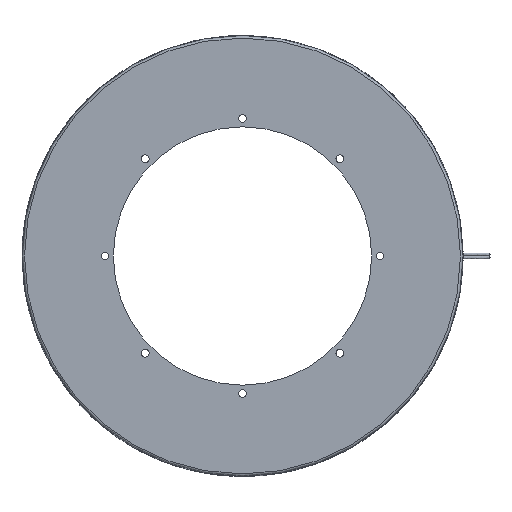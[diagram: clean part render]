
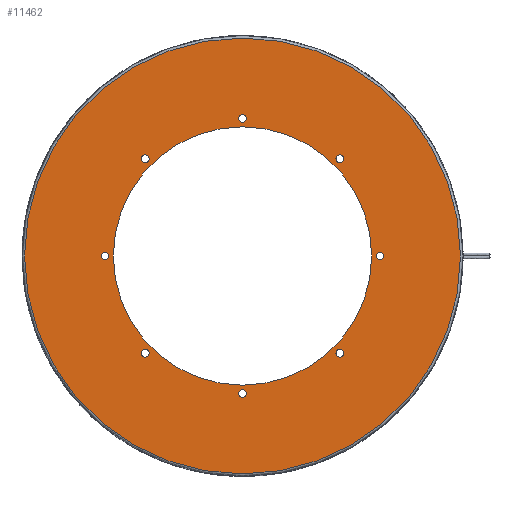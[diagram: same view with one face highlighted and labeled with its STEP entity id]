
A CAD part, left-side view. The second image highlights one B-rep face of the part: STEP entity #11462.
In plain terms, the highlighted planar face has unit normal (-1, 0, 0).
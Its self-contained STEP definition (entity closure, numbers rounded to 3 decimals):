
#546=FACE_BOUND('',#1908,.T.);
#547=FACE_BOUND('',#1909,.T.);
#548=FACE_BOUND('',#1910,.T.);
#549=FACE_BOUND('',#1911,.T.);
#550=FACE_BOUND('',#1912,.T.);
#551=FACE_BOUND('',#1913,.T.);
#552=FACE_BOUND('',#1914,.T.);
#553=FACE_BOUND('',#1915,.T.);
#554=FACE_BOUND('',#1916,.T.);
#758=PLANE('',#12808);
#1270=FACE_OUTER_BOUND('',#1907,.T.);
#1907=EDGE_LOOP('',(#9763,#9764));
#1908=EDGE_LOOP('',(#9765,#9766));
#1909=EDGE_LOOP('',(#9767,#9768));
#1910=EDGE_LOOP('',(#9769,#9770));
#1911=EDGE_LOOP('',(#9771,#9772));
#1912=EDGE_LOOP('',(#9773,#9774));
#1913=EDGE_LOOP('',(#9775,#9776));
#1914=EDGE_LOOP('',(#9777,#9778));
#1915=EDGE_LOOP('',(#9779,#9780));
#1916=EDGE_LOOP('',(#9781,#9782));
#4091=CIRCLE('',#12809,299.5);
#4092=CIRCLE('',#12810,299.5);
#4093=CIRCLE('',#12811,5.25);
#4094=CIRCLE('',#12812,5.25);
#4095=CIRCLE('',#12813,5.25);
#4096=CIRCLE('',#12814,5.25);
#4097=CIRCLE('',#12815,5.25);
#4098=CIRCLE('',#12816,5.25);
#4099=CIRCLE('',#12817,5.25);
#4100=CIRCLE('',#12818,5.25);
#4101=CIRCLE('',#12819,5.25);
#4102=CIRCLE('',#12820,5.25);
#4103=CIRCLE('',#12821,5.25);
#4104=CIRCLE('',#12822,5.25);
#4105=CIRCLE('',#12823,5.25);
#4106=CIRCLE('',#12824,5.25);
#4107=CIRCLE('',#12825,5.25);
#4108=CIRCLE('',#12826,5.25);
#4109=CIRCLE('',#12827,177.5);
#4110=CIRCLE('',#12828,177.5);
#5237=VERTEX_POINT('',#19817);
#5238=VERTEX_POINT('',#19818);
#5239=VERTEX_POINT('',#19821);
#5240=VERTEX_POINT('',#19822);
#5241=VERTEX_POINT('',#19825);
#5242=VERTEX_POINT('',#19826);
#5243=VERTEX_POINT('',#19829);
#5244=VERTEX_POINT('',#19830);
#5245=VERTEX_POINT('',#19833);
#5246=VERTEX_POINT('',#19834);
#5247=VERTEX_POINT('',#19837);
#5248=VERTEX_POINT('',#19838);
#5249=VERTEX_POINT('',#19841);
#5250=VERTEX_POINT('',#19842);
#5251=VERTEX_POINT('',#19845);
#5252=VERTEX_POINT('',#19846);
#5253=VERTEX_POINT('',#19849);
#5254=VERTEX_POINT('',#19850);
#5255=VERTEX_POINT('',#19853);
#5256=VERTEX_POINT('',#19854);
#6807=EDGE_CURVE('',#5237,#5238,#4091,.T.);
#6808=EDGE_CURVE('',#5238,#5237,#4092,.T.);
#6809=EDGE_CURVE('',#5239,#5240,#4093,.T.);
#6810=EDGE_CURVE('',#5240,#5239,#4094,.T.);
#6811=EDGE_CURVE('',#5241,#5242,#4095,.T.);
#6812=EDGE_CURVE('',#5242,#5241,#4096,.T.);
#6813=EDGE_CURVE('',#5243,#5244,#4097,.T.);
#6814=EDGE_CURVE('',#5244,#5243,#4098,.T.);
#6815=EDGE_CURVE('',#5245,#5246,#4099,.T.);
#6816=EDGE_CURVE('',#5246,#5245,#4100,.T.);
#6817=EDGE_CURVE('',#5247,#5248,#4101,.T.);
#6818=EDGE_CURVE('',#5248,#5247,#4102,.T.);
#6819=EDGE_CURVE('',#5249,#5250,#4103,.T.);
#6820=EDGE_CURVE('',#5250,#5249,#4104,.T.);
#6821=EDGE_CURVE('',#5251,#5252,#4105,.T.);
#6822=EDGE_CURVE('',#5252,#5251,#4106,.T.);
#6823=EDGE_CURVE('',#5253,#5254,#4107,.T.);
#6824=EDGE_CURVE('',#5254,#5253,#4108,.T.);
#6825=EDGE_CURVE('',#5255,#5256,#4109,.T.);
#6826=EDGE_CURVE('',#5256,#5255,#4110,.T.);
#9763=ORIENTED_EDGE('',*,*,#6807,.F.);
#9764=ORIENTED_EDGE('',*,*,#6808,.F.);
#9765=ORIENTED_EDGE('',*,*,#6809,.T.);
#9766=ORIENTED_EDGE('',*,*,#6810,.T.);
#9767=ORIENTED_EDGE('',*,*,#6811,.T.);
#9768=ORIENTED_EDGE('',*,*,#6812,.T.);
#9769=ORIENTED_EDGE('',*,*,#6813,.T.);
#9770=ORIENTED_EDGE('',*,*,#6814,.T.);
#9771=ORIENTED_EDGE('',*,*,#6815,.T.);
#9772=ORIENTED_EDGE('',*,*,#6816,.T.);
#9773=ORIENTED_EDGE('',*,*,#6817,.T.);
#9774=ORIENTED_EDGE('',*,*,#6818,.T.);
#9775=ORIENTED_EDGE('',*,*,#6819,.T.);
#9776=ORIENTED_EDGE('',*,*,#6820,.T.);
#9777=ORIENTED_EDGE('',*,*,#6821,.T.);
#9778=ORIENTED_EDGE('',*,*,#6822,.T.);
#9779=ORIENTED_EDGE('',*,*,#6823,.T.);
#9780=ORIENTED_EDGE('',*,*,#6824,.T.);
#9781=ORIENTED_EDGE('',*,*,#6825,.F.);
#9782=ORIENTED_EDGE('',*,*,#6826,.F.);
#11462=ADVANCED_FACE('',(#1270,#546,#547,#548,#549,#550,#551,#552,#553,
#554),#758,.T.);
#12808=AXIS2_PLACEMENT_3D('',#19816,#16113,#16114);
#12809=AXIS2_PLACEMENT_3D('',#19819,#16115,#16116);
#12810=AXIS2_PLACEMENT_3D('',#19820,#16117,#16118);
#12811=AXIS2_PLACEMENT_3D('',#19823,#16119,#16120);
#12812=AXIS2_PLACEMENT_3D('',#19824,#16121,#16122);
#12813=AXIS2_PLACEMENT_3D('',#19827,#16123,#16124);
#12814=AXIS2_PLACEMENT_3D('',#19828,#16125,#16126);
#12815=AXIS2_PLACEMENT_3D('',#19831,#16127,#16128);
#12816=AXIS2_PLACEMENT_3D('',#19832,#16129,#16130);
#12817=AXIS2_PLACEMENT_3D('',#19835,#16131,#16132);
#12818=AXIS2_PLACEMENT_3D('',#19836,#16133,#16134);
#12819=AXIS2_PLACEMENT_3D('',#19839,#16135,#16136);
#12820=AXIS2_PLACEMENT_3D('',#19840,#16137,#16138);
#12821=AXIS2_PLACEMENT_3D('',#19843,#16139,#16140);
#12822=AXIS2_PLACEMENT_3D('',#19844,#16141,#16142);
#12823=AXIS2_PLACEMENT_3D('',#19847,#16143,#16144);
#12824=AXIS2_PLACEMENT_3D('',#19848,#16145,#16146);
#12825=AXIS2_PLACEMENT_3D('',#19851,#16147,#16148);
#12826=AXIS2_PLACEMENT_3D('',#19852,#16149,#16150);
#12827=AXIS2_PLACEMENT_3D('',#19855,#16151,#16152);
#12828=AXIS2_PLACEMENT_3D('',#19856,#16153,#16154);
#16113=DIRECTION('center_axis',(-1.,0.,0.));
#16114=DIRECTION('ref_axis',(0.,-1.,0.));
#16115=DIRECTION('center_axis',(1.,0.,0.));
#16116=DIRECTION('ref_axis',(0.,0.,
-1.));
#16117=DIRECTION('center_axis',(1.,0.,0.));
#16118=DIRECTION('ref_axis',(0.,0.,
-1.));
#16119=DIRECTION('center_axis',(1.,0.,0.));
#16120=DIRECTION('ref_axis',(0.,-1.,0.));
#16121=DIRECTION('center_axis',(1.,0.,0.));
#16122=DIRECTION('ref_axis',(0.,-1.,0.));
#16123=DIRECTION('center_axis',(1.,0.,0.));
#16124=DIRECTION('ref_axis',(0.,-1.,0.));
#16125=DIRECTION('center_axis',(1.,0.,0.));
#16126=DIRECTION('ref_axis',(0.,-1.,0.));
#16127=DIRECTION('center_axis',(1.,0.,0.));
#16128=DIRECTION('ref_axis',(0.,-1.,0.));
#16129=DIRECTION('center_axis',(1.,0.,0.));
#16130=DIRECTION('ref_axis',(0.,-1.,0.));
#16131=DIRECTION('center_axis',(1.,0.,0.));
#16132=DIRECTION('ref_axis',(0.,-1.,0.));
#16133=DIRECTION('center_axis',(1.,0.,0.));
#16134=DIRECTION('ref_axis',(0.,-1.,0.));
#16135=DIRECTION('center_axis',(1.,0.,0.));
#16136=DIRECTION('ref_axis',(0.,-1.,0.));
#16137=DIRECTION('center_axis',(1.,0.,0.));
#16138=DIRECTION('ref_axis',(0.,-1.,0.));
#16139=DIRECTION('center_axis',(1.,0.,0.));
#16140=DIRECTION('ref_axis',(0.,-1.,0.));
#16141=DIRECTION('center_axis',(1.,0.,0.));
#16142=DIRECTION('ref_axis',(0.,-1.,0.));
#16143=DIRECTION('center_axis',(1.,0.,0.));
#16144=DIRECTION('ref_axis',(0.,-1.,0.));
#16145=DIRECTION('center_axis',(1.,0.,0.));
#16146=DIRECTION('ref_axis',(0.,-1.,0.));
#16147=DIRECTION('center_axis',(1.,0.,0.));
#16148=DIRECTION('ref_axis',(0.,-1.,0.));
#16149=DIRECTION('center_axis',(1.,0.,0.));
#16150=DIRECTION('ref_axis',(0.,-1.,0.));
#16151=DIRECTION('center_axis',(-1.,0.,0.));
#16152=DIRECTION('ref_axis',(0.,0.,
1.));
#16153=DIRECTION('center_axis',(-1.,0.,0.));
#16154=DIRECTION('ref_axis',(0.,0.,
1.));
#19816=CARTESIAN_POINT('Origin',(-39.2,0.,
240.));
#19817=CARTESIAN_POINT('',(-39.2,0.,299.5));
#19818=CARTESIAN_POINT('',(-39.2,299.5,0.));
#19819=CARTESIAN_POINT('Origin',(-39.2,0.,
0.));
#19820=CARTESIAN_POINT('Origin',(-39.2,0.,
0.));
#19821=CARTESIAN_POINT('',(-39.2,-5.25,-189.));
#19822=CARTESIAN_POINT('',(-39.2,5.25,-189.));
#19823=CARTESIAN_POINT('Origin',(-39.2,0.,-189.));
#19824=CARTESIAN_POINT('Origin',(-39.2,0.,-189.));
#19825=CARTESIAN_POINT('',(-39.2,183.75,0.));
#19826=CARTESIAN_POINT('',(-39.2,194.25,0.));
#19827=CARTESIAN_POINT('Origin',(-39.2,189.,0.));
#19828=CARTESIAN_POINT('Origin',(-39.2,189.,0.));
#19829=CARTESIAN_POINT('',(-39.2,-5.25,189.));
#19830=CARTESIAN_POINT('',(-39.2,5.25,189.));
#19831=CARTESIAN_POINT('Origin',(-39.2,0.,
189.));
#19832=CARTESIAN_POINT('Origin',(-39.2,0.,
189.));
#19833=CARTESIAN_POINT('',(-39.2,-194.25,0.));
#19834=CARTESIAN_POINT('',(-39.2,-183.75,0.));
#19835=CARTESIAN_POINT('Origin',(-39.2,-189.,0.));
#19836=CARTESIAN_POINT('Origin',(-39.2,-189.,0.));
#19837=CARTESIAN_POINT('',(-39.2,-138.893,133.643));
#19838=CARTESIAN_POINT('',(-39.2,-128.393,133.643));
#19839=CARTESIAN_POINT('Origin',(-39.2,-133.643,133.643));
#19840=CARTESIAN_POINT('Origin',(-39.2,-133.643,133.643));
#19841=CARTESIAN_POINT('',(-39.2,128.393,133.643));
#19842=CARTESIAN_POINT('',(-39.2,138.893,133.643));
#19843=CARTESIAN_POINT('Origin',(-39.2,133.643,133.643));
#19844=CARTESIAN_POINT('Origin',(-39.2,133.643,133.643));
#19845=CARTESIAN_POINT('',(-39.2,128.393,-133.643));
#19846=CARTESIAN_POINT('',(-39.2,138.893,-133.643));
#19847=CARTESIAN_POINT('Origin',(-39.2,133.643,-133.643));
#19848=CARTESIAN_POINT('Origin',(-39.2,133.643,-133.643));
#19849=CARTESIAN_POINT('',(-39.2,-138.893,-133.643));
#19850=CARTESIAN_POINT('',(-39.2,-128.393,-133.643));
#19851=CARTESIAN_POINT('Origin',(-39.2,-133.643,-133.643));
#19852=CARTESIAN_POINT('Origin',(-39.2,-133.643,-133.643));
#19853=CARTESIAN_POINT('',(-39.2,0.,177.5));
#19854=CARTESIAN_POINT('',(-39.2,0.,-177.5));
#19855=CARTESIAN_POINT('Origin',(-39.2,0.,
0.));
#19856=CARTESIAN_POINT('Origin',(-39.2,0.,
0.));
